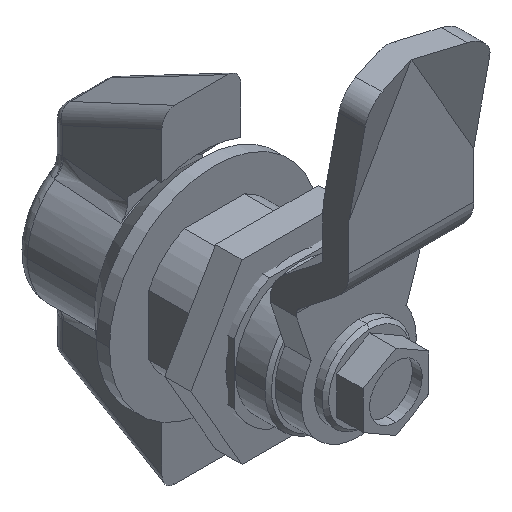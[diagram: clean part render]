
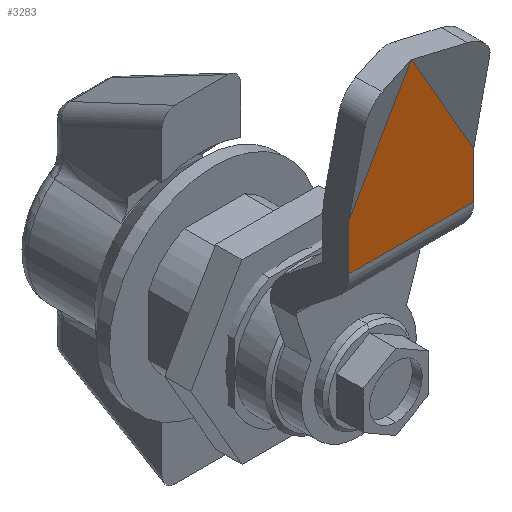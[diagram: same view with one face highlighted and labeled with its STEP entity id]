
A CAD part, isometric view. The second image highlights one B-rep face of the part: STEP entity #3283.
In plain terms, the highlighted planar face has unit normal (0, -1, 0).
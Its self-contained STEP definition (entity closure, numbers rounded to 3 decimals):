
#211 = VERTEX_POINT ( 'NONE', #496 ) ;
#459 = VECTOR ( 'NONE', #5458, 1000. ) ;
#494 = AXIS2_PLACEMENT_3D ( 'NONE', #4400, #4787, #5793 ) ;
#496 = CARTESIAN_POINT ( 'NONE',  ( -21.485, -8., -9.5 ) ) ;
#513 = VECTOR ( 'NONE', #1039, 1000. ) ;
#1039 = DIRECTION ( 'NONE',  ( 0., 0., 1. ) ) ;
#1042 = EDGE_LOOP ( 'NONE', ( #4696, #4668, #4657, #3049, #5562 ) ) ;
#1089 = VERTEX_POINT ( 'NONE', #1187 ) ;
#1187 = CARTESIAN_POINT ( 'NONE',  ( -45., -8., 0. ) ) ;
#1393 = DIRECTION ( 'NONE',  ( 1., 0., 0. ) ) ;
#1454 = EDGE_CURVE ( 'NONE', #1089, #2716, #5752, .T. ) ;
#1709 = CARTESIAN_POINT ( 'NONE',  ( -11.25, -8., 19.486 ) ) ;
#1842 = EDGE_CURVE ( 'NONE', #4124, #5014, #3306, .T. ) ;
#2091 = VECTOR ( 'NONE', #4312, 1000. ) ;
#2338 = LINE ( 'NONE', #4229, #513 ) ;
#2671 = EDGE_CURVE ( 'NONE', #4124, #1089, #4934, .T. ) ;
#2716 = VERTEX_POINT ( 'NONE', #4872 ) ;
#3049 = ORIENTED_EDGE ( 'NONE', *, *, #2671, .T. ) ;
#3283 = ADVANCED_FACE ( 'NONE', ( #3900 ), #4816, .F. ) ;
#3306 = LINE ( 'NONE', #3329, #2091 ) ;
#3329 = CARTESIAN_POINT ( 'NONE',  ( -21., -8., 9.5 ) ) ;
#3597 = CARTESIAN_POINT ( 'NONE',  ( -21.485, -8., 9.5 ) ) ;
#3783 = VECTOR ( 'NONE', #5338, 1000. ) ;
#3847 = EDGE_CURVE ( 'NONE', #2716, #211, #4188, .T. ) ;
#3900 = FACE_OUTER_BOUND ( 'NONE', #1042, .T. ) ;
#3948 = CARTESIAN_POINT ( 'NONE',  ( -11.25, -8., -19.486 ) ) ;
#4124 = VERTEX_POINT ( 'NONE', #4388 ) ;
#4188 = LINE ( 'NONE', #5543, #5686 ) ;
#4229 = CARTESIAN_POINT ( 'NONE',  ( -21.485, -8., 24.062 ) ) ;
#4298 = EDGE_CURVE ( 'NONE', #211, #5014, #2338, .T. ) ;
#4312 = DIRECTION ( 'NONE',  ( 1., 0., 0. ) ) ;
#4388 = CARTESIAN_POINT ( 'NONE',  ( -28.546, -8., 9.5 ) ) ;
#4400 = CARTESIAN_POINT ( 'NONE',  ( -21., -8., 24.062 ) ) ;
#4657 = ORIENTED_EDGE ( 'NONE', *, *, #1842, .F. ) ;
#4668 = ORIENTED_EDGE ( 'NONE', *, *, #4298, .T. ) ;
#4696 = ORIENTED_EDGE ( 'NONE', *, *, #3847, .T. ) ;
#4787 = DIRECTION ( 'NONE',  ( 0., 1., 0. ) ) ;
#4816 = PLANE ( 'NONE',  #494 ) ;
#4872 = CARTESIAN_POINT ( 'NONE',  ( -28.546, -8., -9.5 ) ) ;
#4934 = LINE ( 'NONE', #1709, #459 ) ;
#5014 = VERTEX_POINT ( 'NONE', #3597 ) ;
#5338 = DIRECTION ( 'NONE',  ( 0.866, 0., -0.5 ) ) ;
#5458 = DIRECTION ( 'NONE',  ( -0.866, 0., -0.5 ) ) ;
#5543 = CARTESIAN_POINT ( 'NONE',  ( -21., -8., -9.5 ) ) ;
#5562 = ORIENTED_EDGE ( 'NONE', *, *, #1454, .T. ) ;
#5686 = VECTOR ( 'NONE', #1393, 1000. ) ;
#5752 = LINE ( 'NONE', #3948, #3783 ) ;
#5793 = DIRECTION ( 'NONE',  ( 0., 0., 1. ) ) ;
